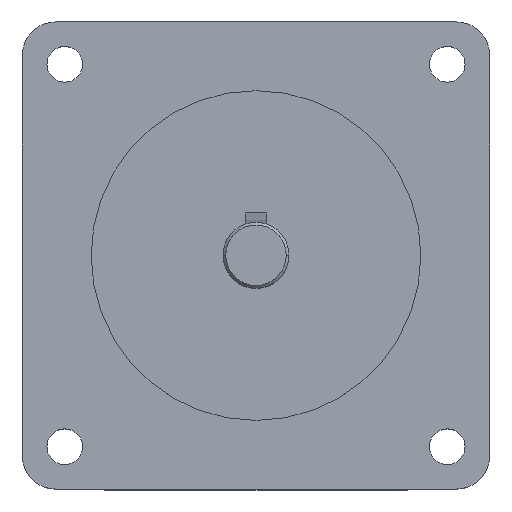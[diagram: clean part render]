
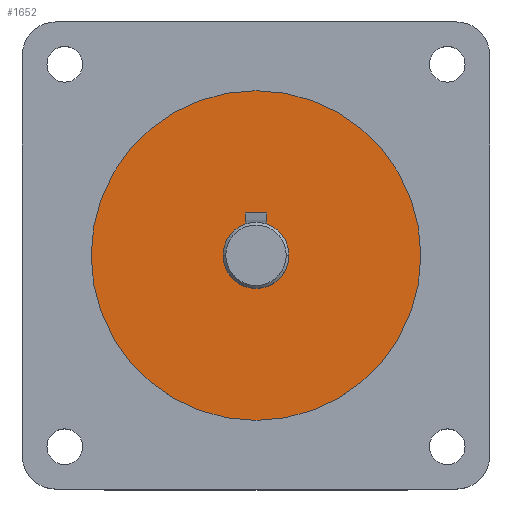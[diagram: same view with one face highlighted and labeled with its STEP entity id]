
A CAD part, top view. The second image highlights one B-rep face of the part: STEP entity #1652.
In plain terms, the highlighted planar face has unit normal (0, 0, 1).
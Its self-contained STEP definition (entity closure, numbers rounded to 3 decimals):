
#37 = DIRECTION ( 'NONE',  ( 0., 0., 1. ) ) ;
#47 = CIRCLE ( 'NONE', #1686, 30. ) ;
#67 = CARTESIAN_POINT ( 'NONE',  ( 0., 0., 99. ) ) ;
#81 = CIRCLE ( 'NONE', #637, 6. ) ;
#218 = FACE_BOUND ( 'NONE', #1443, .T. ) ;
#220 = CIRCLE ( 'NONE', #225, 30. ) ;
#225 = AXIS2_PLACEMENT_3D ( 'NONE', #331, #37, #656 ) ;
#331 = CARTESIAN_POINT ( 'NONE',  ( 0., 0., 99. ) ) ;
#393 = ORIENTED_EDGE ( 'NONE', *, *, #1817, .T. ) ;
#395 = EDGE_CURVE ( 'NONE', #1739, #1139, #47, .T. ) ;
#442 = CARTESIAN_POINT ( 'NONE',  ( 0., 0., 99. ) ) ;
#447 = CIRCLE ( 'NONE', #448, 6. ) ;
#448 = AXIS2_PLACEMENT_3D ( 'NONE', #1873, #618, #1176 ) ;
#473 = DIRECTION ( 'NONE',  ( 1., 0., 0. ) ) ;
#618 = DIRECTION ( 'NONE',  ( 0., 0., -1. ) ) ;
#637 = AXIS2_PLACEMENT_3D ( 'NONE', #442, #1013, #1575 ) ;
#656 = DIRECTION ( 'NONE',  ( 1., 0., 0. ) ) ;
#684 = EDGE_LOOP ( 'NONE', ( #947, #1459 ) ) ;
#685 = DIRECTION ( 'NONE',  ( 0., 0., 1. ) ) ;
#716 = CARTESIAN_POINT ( 'NONE',  ( -6., 0., 99. ) ) ;
#741 = CARTESIAN_POINT ( 'NONE',  ( -30., 0., 99. ) ) ;
#788 = CARTESIAN_POINT ( 'NONE',  ( 30., 0., 99. ) ) ;
#824 = FACE_OUTER_BOUND ( 'NONE', #684, .T. ) ;
#874 = AXIS2_PLACEMENT_3D ( 'NONE', #67, #685, #1236 ) ;
#944 = VERTEX_POINT ( 'NONE', #716 ) ;
#947 = ORIENTED_EDGE ( 'NONE', *, *, #395, .T. ) ;
#1005 = EDGE_CURVE ( 'NONE', #1498, #944, #81, .T. ) ;
#1013 = DIRECTION ( 'NONE',  ( 0., 0., -1. ) ) ;
#1139 = VERTEX_POINT ( 'NONE', #788 ) ;
#1176 = DIRECTION ( 'NONE',  ( 1., 0., 0. ) ) ;
#1182 = CARTESIAN_POINT ( 'NONE',  ( 0., 0., 99. ) ) ;
#1236 = DIRECTION ( 'NONE',  ( 1., 0., 0. ) ) ;
#1365 = PLANE ( 'NONE',  #874 ) ;
#1443 = EDGE_LOOP ( 'NONE', ( #393, #1781 ) ) ;
#1459 = ORIENTED_EDGE ( 'NONE', *, *, #1573, .T. ) ;
#1498 = VERTEX_POINT ( 'NONE', #1582 ) ;
#1573 = EDGE_CURVE ( 'NONE', #1139, #1739, #220, .T. ) ;
#1575 = DIRECTION ( 'NONE',  ( 1., 0., 0. ) ) ;
#1582 = CARTESIAN_POINT ( 'NONE',  ( 6., 0., 99. ) ) ;
#1652 = ADVANCED_FACE ( 'NONE', ( #218, #824 ), #1365, .T. ) ;
#1686 = AXIS2_PLACEMENT_3D ( 'NONE', #1182, #1745, #473 ) ;
#1739 = VERTEX_POINT ( 'NONE', #741 ) ;
#1745 = DIRECTION ( 'NONE',  ( 0., 0., 1. ) ) ;
#1781 = ORIENTED_EDGE ( 'NONE', *, *, #1005, .T. ) ;
#1817 = EDGE_CURVE ( 'NONE', #944, #1498, #447, .T. ) ;
#1873 = CARTESIAN_POINT ( 'NONE',  ( 0., 0., 99. ) ) ;
